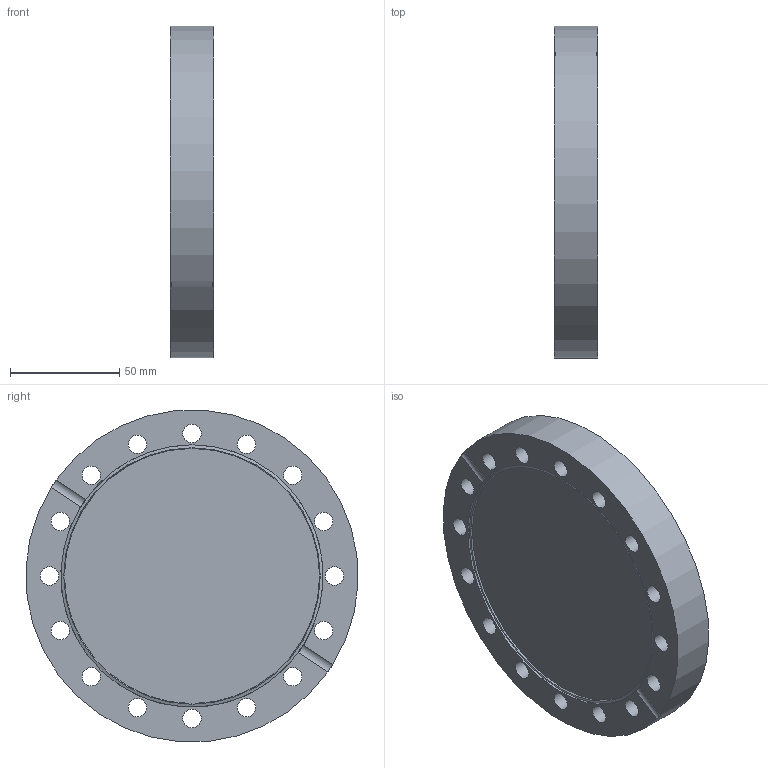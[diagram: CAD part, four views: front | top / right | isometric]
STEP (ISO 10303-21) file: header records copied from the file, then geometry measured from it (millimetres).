
FILE_DESCRIPTION( ( 'Unknown' ), '1' );
FILE_NAME( 'X:/Daten ( aktueller Bestand )/Projekte und Zeichnungen/Solid Edge/15 CF Bauteile/CF-doppelseitiger Blindflansch/7434F.stp', 'Unknown', ( 'Unknown' ), ( 'Unknown' ), 'XStep 1.0', 'Unknown', ' ' );
FILE_SCHEMA( ( 'automotive_design' ) );
Length unit declared in the file: millimetre
Products named in the file (1): 1
Bounding box: 19.9 x 151.83 x 151.58 mm (x, y, z)
Volume: 314556.3 mm3; surface area: 53662.8 mm2
Topology: 1 solids, 1 shells, 33 faces, 103 edges, 72 vertices
Faces by surface type: cylinder 23, plane 6, cone 4
Full cylindrical faces by diameter (mm): 8.4 x16, 120 x2, 152 x1
Entity records: 1370 total; most frequent: CARTESIAN_POINT 286, DIRECTION 168, ORIENTED_EDGE 124, EDGE_LOOP 88, AXIS2_PLACEMENT_3D 80, EDGE_CURVE 62, VERTEX_POINT 54, FACE_OUTER_BOUND 52
